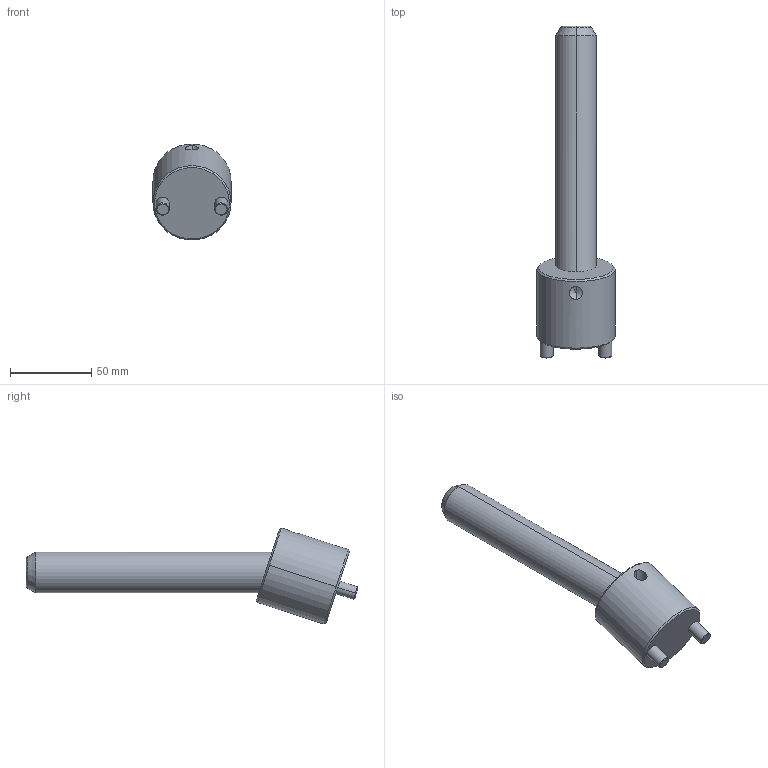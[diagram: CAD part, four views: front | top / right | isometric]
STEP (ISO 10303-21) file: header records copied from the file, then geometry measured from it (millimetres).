
FILE_DESCRIPTION(('CATIA V5 STEP Exchange'),'2;1');
FILE_NAME('C:\Users\Raffaele\Desktop\3D BOLEX\3D FILES CF BOLEX\19-INCLINED ASSEMBLY REF_CI\CI1825150.stp','2019-06-24T07:46:03+00:00',('none'),('none'),'CATIA Version 5 Release 20 GA (IN-10)','CATIA V5 STEP AP203','none');
FILE_SCHEMA(('CONFIG_CONTROL_DESIGN'));
Length unit declared in the file: millimetre
Products named in the file (1): CI1825150
Assembly tree (2 placements, depth 2):
  CI1825150
    #58
    #605
Bounding box: 48 x 203.84 x 58.94 mm (x, y, z)
Volume: 152776.6 mm3; surface area: 29326.9 mm2
Topology: 2 solids, 2 shells, 39 faces, 82 edges, 47 vertices
Faces by surface type: cone 14, cylinder 14, plane 7, torus 4
Entity records: 1530 total; most frequent: CARTESIAN_POINT 671, ORIENTED_EDGE 160, DIRECTION 145, EDGE_CURVE 80, AXIS2_PLACEMENT_3D 72, VERTEX_POINT 47, EDGE_LOOP 43, ADVANCED_FACE 39
